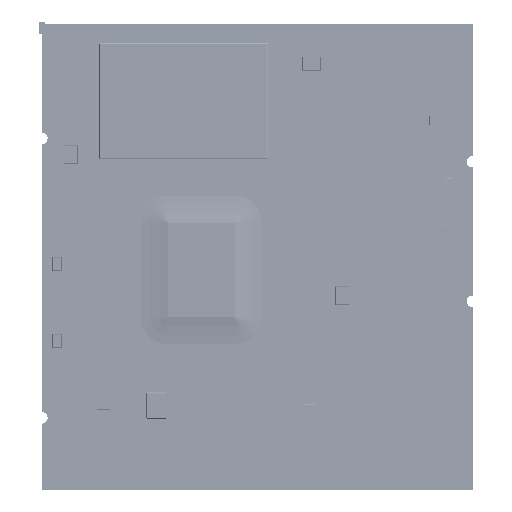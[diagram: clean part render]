
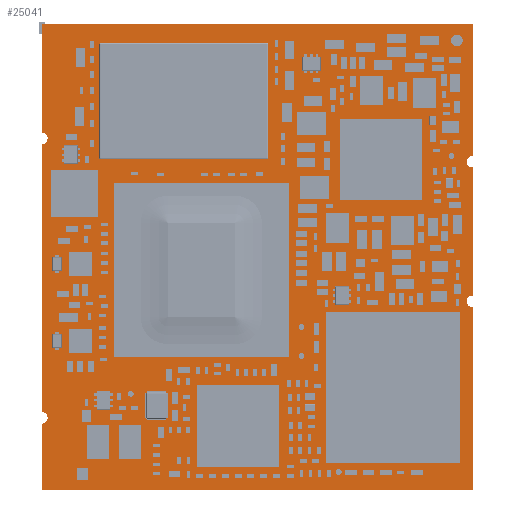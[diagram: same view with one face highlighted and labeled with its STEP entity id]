
A CAD part, top view. The second image highlights one B-rep face of the part: STEP entity #25041.
In plain terms, the highlighted planar face has unit normal (0, 0, 1).
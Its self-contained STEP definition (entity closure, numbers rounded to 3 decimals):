
#25041=ADVANCED_FACE('',(#45347),#45348,.T.);
#45347=FACE_OUTER_BOUND('',#64859,.T.);
#45348=PLANE('',#64860);
#64859=EDGE_LOOP('',(#99229,#99230,#99231,#99232,#99233,#99234,#99235,#99236,#99237,#99238,#99239,#99240));
#64860=AXIS2_PLACEMENT_3D('',#99241,#99242,#99243);
#99229=ORIENTED_EDGE('',*,*,#111707,.F.);
#99230=ORIENTED_EDGE('',*,*,#111708,.F.);
#99231=ORIENTED_EDGE('',*,*,#111709,.F.);
#99232=ORIENTED_EDGE('',*,*,#111710,.F.);
#99233=ORIENTED_EDGE('',*,*,#111711,.F.);
#99234=ORIENTED_EDGE('',*,*,#111712,.F.);
#99235=ORIENTED_EDGE('',*,*,#111713,.F.);
#99236=ORIENTED_EDGE('',*,*,#111714,.F.);
#99237=ORIENTED_EDGE('',*,*,#111715,.F.);
#99238=ORIENTED_EDGE('',*,*,#111716,.F.);
#99239=ORIENTED_EDGE('',*,*,#111717,.F.);
#99240=ORIENTED_EDGE('',*,*,#111718,.F.);
#99241=CARTESIAN_POINT('',(18.5,20.003,1.888));
#99242=DIRECTION('',(0.,0.,1.0));
#99243=DIRECTION('',(1.0,0.0,0.));
#111707=EDGE_CURVE('',#128471,#128472,#128473,.T.);
#111708=EDGE_CURVE('',#128474,#128471,#128475,.T.);
#111709=EDGE_CURVE('',#128476,#128474,#128477,.T.);
#111710=EDGE_CURVE('',#128478,#128476,#128479,.T.);
#111711=EDGE_CURVE('',#128480,#128478,#128481,.T.);
#111712=EDGE_CURVE('',#128482,#128480,#128483,.T.);
#111713=EDGE_CURVE('',#128484,#128482,#128485,.T.);
#111714=EDGE_CURVE('',#128486,#128484,#128487,.T.);
#111715=EDGE_CURVE('',#128488,#128486,#128489,.T.);
#111716=EDGE_CURVE('',#128490,#128488,#128491,.T.);
#111717=EDGE_CURVE('',#128492,#128490,#128493,.T.);
#111718=EDGE_CURVE('',#128472,#128492,#128494,.T.);
#128471=VERTEX_POINT('',#148004);
#128472=VERTEX_POINT('',#148005);
#128473=CIRCLE('',#148006,0.5);
#128474=VERTEX_POINT('',#148007);
#128475=LINE('',#148008,#148009);
#128476=VERTEX_POINT('',#148010);
#128477=LINE('',#148011,#148012);
#128478=VERTEX_POINT('',#148013);
#128479=LINE('',#148014,#148015);
#128480=VERTEX_POINT('',#148016);
#128481=CIRCLE('',#148017,0.5);
#128482=VERTEX_POINT('',#148018);
#128483=LINE('',#148019,#148020);
#128484=VERTEX_POINT('',#148021);
#128485=CIRCLE('',#148022,0.5);
#128486=VERTEX_POINT('',#148023);
#128487=LINE('',#148024,#148025);
#128488=VERTEX_POINT('',#148026);
#128489=LINE('',#148027,#148028);
#128490=VERTEX_POINT('',#148029);
#128491=LINE('',#148030,#148031);
#128492=VERTEX_POINT('',#148032);
#128493=CIRCLE('',#148033,0.5);
#128494=LINE('',#148034,#148035);
#148004=CARTESIAN_POINT('',(37.0,28.7,1.888));
#148005=CARTESIAN_POINT('',(37.0,27.7,1.888));
#148006=AXIS2_PLACEMENT_3D('',#162870,#162871,#162872);
#148007=CARTESIAN_POINT('',(37.0,40.0,1.888));
#148008=CARTESIAN_POINT('',(37.0,34.35,1.888));
#148009=VECTOR('',#162873,1.0);
#148010=CARTESIAN_POINT('',(0.,40.0,1.888));
#148011=CARTESIAN_POINT('',(18.5,40.0,1.888));
#148012=VECTOR('',#162874,1.0);
#148013=CARTESIAN_POINT('',(0.,30.7,1.888));
#148014=CARTESIAN_POINT('',(0.,35.35,1.888));
#148015=VECTOR('',#162875,1.0);
#148016=CARTESIAN_POINT('',(0.,29.7,1.888));
#148017=AXIS2_PLACEMENT_3D('',#162876,#162877,#162878);
#148018=CARTESIAN_POINT('',(0.,6.7,1.888));
#148019=CARTESIAN_POINT('',(0.,18.2,1.888));
#148020=VECTOR('',#162879,1.0);
#148021=CARTESIAN_POINT('',(0.,5.7,1.888));
#148022=AXIS2_PLACEMENT_3D('',#162880,#162881,#162882);
#148023=CARTESIAN_POINT('',(0.,0.,1.888));
#148024=CARTESIAN_POINT('',(0.,2.85,1.888));
#148025=VECTOR('',#162883,1.0);
#148026=CARTESIAN_POINT('',(37.0,0.,1.888));
#148027=CARTESIAN_POINT('',(18.5,0.,1.888));
#148028=VECTOR('',#162884,1.0);
#148029=CARTESIAN_POINT('',(37.0,15.7,1.888));
#148030=CARTESIAN_POINT('',(37.0,7.85,1.888));
#148031=VECTOR('',#162885,1.0);
#148032=CARTESIAN_POINT('',(37.0,16.7,1.888));
#148033=AXIS2_PLACEMENT_3D('',#162886,#162887,#162888);
#148034=CARTESIAN_POINT('',(37.0,22.2,1.888));
#148035=VECTOR('',#162889,1.0);
#162870=CARTESIAN_POINT('',(37.0,28.2,1.888));
#162871=DIRECTION('',(0.0,-0.0,1.0));
#162872=DIRECTION('',(0.0,1.0,0.0));
#162873=DIRECTION('',(0.0,-1.0,0.0));
#162874=DIRECTION('',(1.0,0.0,0.0));
#162875=DIRECTION('',(0.,1.0,0.0));
#162876=CARTESIAN_POINT('',(0.,30.2,1.888));
#162877=DIRECTION('',(0.0,0.0,1.0));
#162878=DIRECTION('',(0.0,-1.0,0.0));
#162879=DIRECTION('',(0.,1.0,0.0));
#162880=CARTESIAN_POINT('',(0.,6.2,1.888));
#162881=DIRECTION('',(0.0,0.0,1.0));
#162882=DIRECTION('',(0.0,-1.0,0.0));
#162883=DIRECTION('',(0.0,1.0,0.0));
#162884=DIRECTION('',(-1.0,0.0,0.0));
#162885=DIRECTION('',(0.0,-1.0,0.0));
#162886=CARTESIAN_POINT('',(37.0,16.2,1.888));
#162887=DIRECTION('',(0.0,-0.0,1.0));
#162888=DIRECTION('',(0.0,1.0,0.0));
#162889=DIRECTION('',(0.0,-1.0,0.0));
